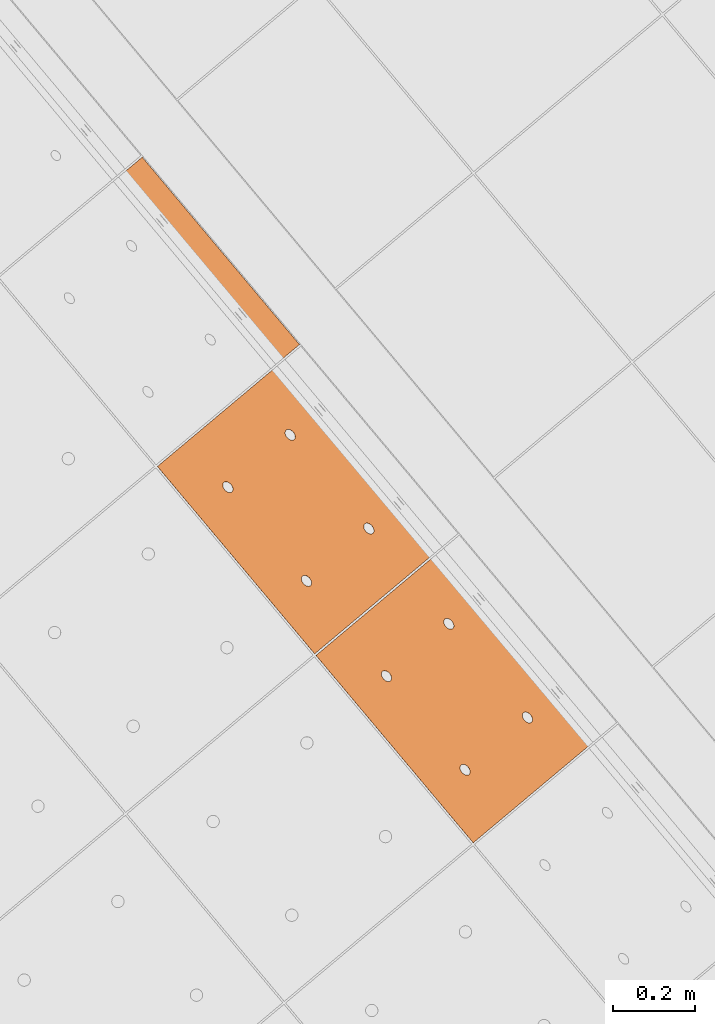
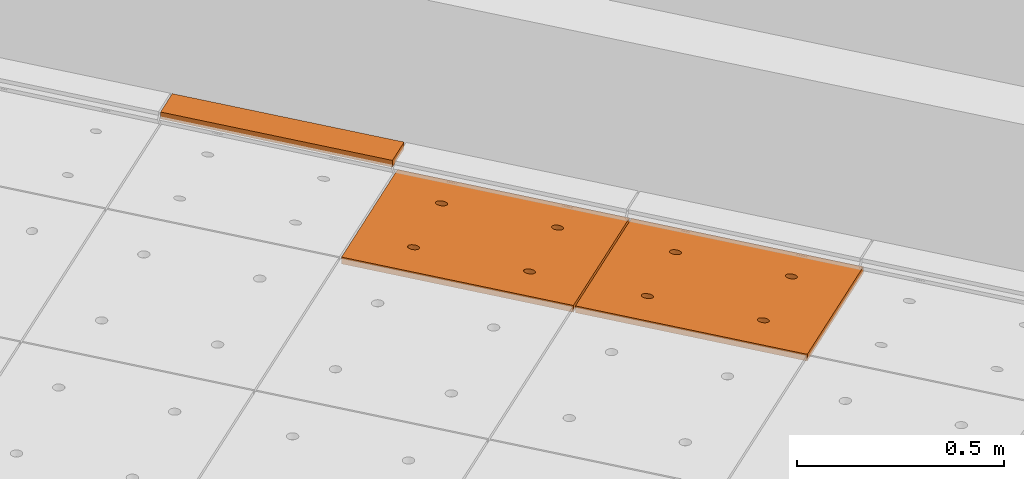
# One storey, part 211 of 338: 3 proxies, 1 element without a shape of its own.
"""IFC2X3 building model written with IfcOpenShell, lengths in millimetres."""

from ifc_helpers import new_model, entity, si_unit, converted_unit, derived_unit, money_unit, direction, frame, origin_with_axes, place, context, subcontext, project, spatial, faceted_brep, source, transform, mapped, material, type_object, type_shapes, element, aggregate, save


model = new_model("IFC2X3")

# Units and contexts
model_context = context("Model", 3, precision=0.01, world=origin_with_axes(), true_north=direction((0.0, 1.0)))
plan_context = context("Plan", 3, precision=0.01, world=origin_with_axes(), true_north=direction((0.0, 1.0)))
body_context = subcontext(model_context, "Body", "Model", "MODEL_VIEW")
ifc_project = project(units=[si_unit("LENGTHUNIT", "METRE", prefix="MILLI"), si_unit("AREAUNIT", "SQUARE_METRE"), si_unit("VOLUMEUNIT", "CUBIC_METRE"), converted_unit("PLANEANGLEUNIT", "DEGREE", entity("IfcPlaneAngleMeasure", 0.0174532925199), si_unit("PLANEANGLEUNIT", "RADIAN"), dimensions=[0, 0, 0, 0, 0, 0, 0]), money_unit("EUR"), converted_unit("TIMEUNIT", "Year", entity("IfcTimeMeasure", 31556926.0), si_unit("TIMEUNIT", "SECOND"), dimensions=[0, 0, 1, 0, 0, 0, 0]), si_unit("MASSUNIT", "GRAM", prefix="KILO"), si_unit("THERMODYNAMICTEMPERATUREUNIT", "DEGREE_CELSIUS"), si_unit("LUMINOUSINTENSITYUNIT", "LUMEN"), si_unit("ENERGYUNIT", "JOULE", prefix="MEGA"), derived_unit("THERMALCONDUCTANCEUNIT", [(si_unit("POWERUNIT", "WATT"), 1), (si_unit("LENGTHUNIT", "METRE"), -1), (si_unit("THERMODYNAMICTEMPERATUREUNIT", "KELVIN"), -1)]), derived_unit("SPECIFICHEATCAPACITYUNIT", [(si_unit("ENERGYUNIT", "JOULE"), 1), (si_unit("MASSUNIT", "GRAM", prefix="KILO"), -1), (si_unit("THERMODYNAMICTEMPERATUREUNIT", "KELVIN"), -1)]), derived_unit("MASSDENSITYUNIT", [(si_unit("MASSUNIT", "GRAM", prefix="KILO"), 1), (si_unit("VOLUMEUNIT", "CUBIC_METRE"), -1)])], contexts=[model_context, plan_context])

# Site, building, storey
site_placement = place(None, origin_with_axes())
site = spatial("IfcSite", under=ifc_project, at=site_placement, Name="Fortuinstraat Woensdrecht", CompositionType="ELEMENT")
building_placement = place(site_placement, origin_with_axes())
building = spatial("IfcBuilding", under=site, at=building_placement, Name="IKC Fortuna", CompositionType="ELEMENT")
storey_placement = place(building_placement, origin_with_axes())
storey = spatial("IfcBuildingStorey", under=building, at=storey_placement, Name="00 begane grond", CompositionType="ELEMENT", Elevation=0.0)

# Covering, proxies
covering_type = type_object("IfcCoveringType", Name="Curtain Wall Type", PredefinedType="CEILING")
covering_placement = place(storey_placement, frame((15863.124366, 4456.31398675, 4619.99995334), z_axis=(0.0, 0.0, 1.0), x_axis=(1.0, 0.0, 0.0)))
covering = element("IfcCovering", 1, at=covering_placement, inside=storey, type_object=covering_type, Name="45_Plafondafwerking_P01", PredefinedType="CEILING")
ifc_material = material(Name="Gipsplaat")
building_element_proxy_type_1 = type_object("IfcBuildingElementProxyType", Name="87 x 600 x 20", PredefinedType="NOTDEFINED")
shared_shape_1 = source(origin_with_axes(), body_context, "Body", "Brep", [
    faceted_brep([(142.231818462, 2.49999429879, -10.0), (224.589025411, 2.49999726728, -10.0), (224.589025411, 2.49999726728, 10.0), (142.231818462, 2.49999429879, 10.0), (142.231833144, 597.500001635, -10.0), (224.589035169, 597.499998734, -10.0), (224.589035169, 597.499998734, 10.0), (142.231833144, 597.500001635, 10.0)], [[[0, 1, 2, 3]], [[0, 4, 5, 1]], [[1, 5, 6, 2]], [[3, 2, 6, 7]], [[4, 0, 3, 7]], [[5, 4, 7, 6]]]),
])
type_shapes(building_element_proxy_type_1, [shared_shape_1])
proxy_1_placement = place(covering_placement, frame((-3684.00670911, 4390.42598492, 40.0000466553), z_axis=(0.0, 0.0, 1.0), x_axis=(1.0, 0.0, 0.0)))
proxy_1 = element("IfcBuildingElementProxy", 2, at=proxy_1_placement, type_object=building_element_proxy_type_1, material=ifc_material, Name="__600x645 Rockfon Krios", context=body_context, shape_type="MappedRepresentation", body=[
    mapped(shared_shape_1, transform((-52.3358266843, 347.707274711, -1.1901590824e-10), x_axis=(-0.766044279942, -0.642787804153, 0.0), y_axis=(0.642787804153, -0.766044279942, 0.0), z_axis=(0.0, 0.0, 1.0))),
])
building_element_proxy_type_2 = type_object("IfcBuildingElementProxyType", Name="Main Panel 401 x 600 x 20", PredefinedType="NOTDEFINED")
shared_shape_2 = source(origin_with_axes(), body_context, "Body", "Brep", [
    faceted_brep([(2.49999200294, 2.49999800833, -10.0), (200.390796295, 2.49999800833, -10.0), (200.390796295, 2.49999800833, 10.0), (2.49999200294, 2.49999800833, 10.0), (2.49999200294, 299.999999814, -10.0), (2.49999200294, 597.50000162, -10.0), (200.390796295, 597.50000162, -10.0), (398.281600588, 597.50000162, -10.0), (398.281600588, 299.999999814, -10.0), (398.281600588, 2.49999800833, -10.0), (111.423081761, 450.062330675, -10.0), (111.119914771, 452.647116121, -10.0), (110.522792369, 455.113489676, -10.0), (109.649857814, 457.38651185, -10.0), (108.527634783, 459.397117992, -10.0), (107.190221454, 461.084216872, -10.0), (105.678254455, 462.39654683, -10.0), (104.037674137, 463.294233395, -10.0), (102.318328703, 463.750000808, -10.0), (100.572459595, 463.750000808, -10.0), (98.8531141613, 463.294233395, -10.0), (97.212533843, 462.39654683, -10.0), (95.7005668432, 461.084216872, -10.0), (94.3631535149, 459.397117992, -10.0), (93.240930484, 457.38651185, -10.0), (92.3679959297, 455.113489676, -10.0), (91.7708735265, 452.647116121, -10.0), (91.4677065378, 450.062330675, -10.0), (91.4677065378, 448.750000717, -10.0), (91.4677065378, 447.437670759, -10.0), (91.7708735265, 444.852885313, -10.0), (92.3679959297, 442.386511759, -10.0), (93.240930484, 440.113489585, -10.0), (94.3631535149, 438.102883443, -10.0), (95.7005668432, 436.415784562, -10.0), (97.212533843, 435.103454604, -10.0), (98.8531141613, 434.205768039, -10.0), (100.572459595, 433.750000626, -10.0), (102.318328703, 433.750000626, -10.0), (104.037674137, 434.205768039, -10.0), (105.678254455, 435.103454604, -10.0), (107.190221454, 436.415784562, -10.0), (108.527634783, 438.102883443, -10.0), (109.649857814, 440.113489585, -10.0), (110.522792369, 442.386511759, -10.0), (111.119914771, 444.852885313, -10.0), (111.423081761, 447.437670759, -10.0), (309.313886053, 450.062330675, -10.0), (309.010719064, 452.647116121, -10.0), (308.413596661, 455.113489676, -10.0), (307.540662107, 457.38651185, -10.0), (306.418439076, 459.397117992, -10.0), (305.081025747, 461.084216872, -10.0), (303.569058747, 462.39654683, -10.0), (301.928478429, 463.294233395, -10.0), (300.209132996, 463.750000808, -10.0), (298.463263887, 463.750000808, -10.0), (296.743918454, 463.294233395, -10.0), (295.103338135, 462.39654683, -10.0), (293.591371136, 461.084216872, -10.0), (292.253957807, 459.397117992, -10.0), (291.131734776, 457.38651185, -10.0), (290.258800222, 455.113489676, -10.0), (289.661677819, 452.647116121, -10.0), (289.35851083, 450.062330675, -10.0), (289.35851083, 448.750000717, -10.0), (289.35851083, 447.437670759, -10.0), (289.661677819, 444.852885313, -10.0), (290.258800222, 442.386511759, -10.0), (291.131734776, 440.113489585, -10.0), (292.253957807, 438.102883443, -10.0), (293.591371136, 436.415784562, -10.0), (295.103338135, 435.103454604, -10.0), (296.743918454, 434.205768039, -10.0), (298.463263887, 433.750000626, -10.0), (300.209132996, 433.750000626, -10.0), (301.928478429, 434.205768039, -10.0), (303.569058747, 435.103454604, -10.0), (305.081025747, 436.415784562, -10.0), (306.418439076, 438.102883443, -10.0), (307.540662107, 440.113489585, -10.0), (308.413596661, 442.386511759, -10.0), (309.010719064, 444.852885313, -10.0), (309.313886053, 447.437670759, -10.0), (309.313886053, 152.562328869, -10.0), (309.010719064, 155.147114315, -10.0), (308.413596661, 157.61348787, -10.0), (307.540662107, 159.886510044, -10.0), (306.418439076, 161.897116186, -10.0), (305.081025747, 163.584215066, -10.0), (303.569058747, 164.896545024, -10.0), (301.928478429, 165.79423159, -10.0), (300.209132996, 166.249999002, -10.0), (298.463263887, 166.249999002, -10.0), (296.743918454, 165.79423159, -10.0), (295.103338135, 164.896545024, -10.0), (293.591371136, 163.584215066, -10.0), (292.253957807, 161.897116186, -10.0), (291.131734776, 159.886510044, -10.0), (290.258800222, 157.61348787, -10.0), (289.661677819, 155.147114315, -10.0), (289.35851083, 152.562328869, -10.0), (289.35851083, 151.249998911, -10.0), (289.35851083, 149.937668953, -10.0), (289.661677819, 147.352883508, -10.0), (290.258800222, 144.886509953, -10.0), (291.131734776, 142.613487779, -10.0), (292.253957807, 140.602881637, -10.0), (293.591371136, 138.915782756, -10.0), (295.103338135, 137.603452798, -10.0), (296.743918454, 136.705766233, -10.0), (298.463263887, 136.24999882, -10.0), (300.209132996, 136.24999882, -10.0), (301.928478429, 136.705766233, -10.0), (303.569058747, 137.603452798, -10.0), (305.081025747, 138.915782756, -10.0), (306.418439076, 140.602881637, -10.0), (307.540662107, 142.613487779, -10.0), (308.413596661, 144.886509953, -10.0), (309.010719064, 147.352883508, -10.0), (309.313886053, 149.937668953, -10.0), (111.423081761, 152.562328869, -10.0), (111.119914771, 155.147114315, -10.0), (110.522792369, 157.61348787, -10.0), (109.649857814, 159.886510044, -10.0), (108.527634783, 161.897116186, -10.0), (107.190221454, 163.584215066, -10.0), (105.678254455, 164.896545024, -10.0), (104.037674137, 165.79423159, -10.0), (102.318328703, 166.249999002, -10.0), (100.572459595, 166.249999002, -10.0), (98.8531141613, 165.79423159, -10.0), (97.212533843, 164.896545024, -10.0), (95.7005668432, 163.584215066, -10.0), (94.3631535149, 161.897116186, -10.0), (93.240930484, 159.886510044, -10.0), (92.3679959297, 157.61348787, -10.0), (91.7708735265, 155.147114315, -10.0), (91.4677065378, 152.562328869, -10.0), (91.4677065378, 151.249998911, -10.0), (91.4677065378, 149.937668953, -10.0), (91.7708735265, 147.352883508, -10.0), (92.3679959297, 144.886509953, -10.0), (93.240930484, 142.613487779, -10.0), (94.3631535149, 140.602881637, -10.0), (95.7005668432, 138.915782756, -10.0), (97.212533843, 137.603452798, -10.0), (98.8531141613, 136.705766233, -10.0), (100.572459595, 136.24999882, -10.0), (102.318328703, 136.24999882, -10.0), (104.037674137, 136.705766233, -10.0), (105.678254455, 137.603452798, -10.0), (107.190221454, 138.915782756, -10.0), (108.527634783, 140.602881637, -10.0), (109.649857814, 142.613487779, -10.0), (110.522792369, 144.886509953, -10.0), (111.119914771, 147.352883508, -10.0), (111.423081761, 149.937668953, -10.0), (398.281600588, 2.49999800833, 10.0), (398.281600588, 299.999999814, 10.0), (398.281600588, 597.50000162, 10.0), (200.390796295, 597.50000162, 10.0), (2.49999200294, 597.50000162, 10.0), (2.49999200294, 299.999999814, 10.0), (111.423081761, 450.062330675, 10.0), (111.423081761, 447.437670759, 10.0), (111.119914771, 444.852885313, 10.0), (110.522792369, 442.386511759, 10.0), (109.649857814, 440.113489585, 10.0), (108.527634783, 438.102883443, 10.0), (107.190221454, 436.415784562, 10.0), (105.678254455, 435.103454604, 10.0), (104.037674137, 434.205768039, 10.0), (102.318328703, 433.750000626, 10.0), (100.572459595, 433.750000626, 10.0), (98.8531141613, 434.205768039, 10.0), (97.212533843, 435.103454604, 10.0), (95.7005668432, 436.415784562, 10.0), (94.3631535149, 438.102883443, 10.0), (93.240930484, 440.113489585, 10.0), (92.3679959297, 442.386511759, 10.0), (91.7708735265, 444.852885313, 10.0), (91.4677065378, 447.437670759, 10.0), (91.4677065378, 448.750000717, 10.0), (91.4677065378, 450.062330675, 10.0), (91.7708735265, 452.647116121, 10.0), (92.3679959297, 455.113489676, 10.0), (93.240930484, 457.38651185, 10.0), (94.3631535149, 459.397117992, 10.0), (95.7005668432, 461.084216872, 10.0), (97.212533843, 462.39654683, 10.0), (98.8531141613, 463.294233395, 10.0), (100.572459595, 463.750000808, 10.0), (102.318328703, 463.750000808, 10.0), (104.037674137, 463.294233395, 10.0), (105.678254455, 462.39654683, 10.0), (107.190221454, 461.084216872, 10.0), (108.527634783, 459.397117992, 10.0), (109.649857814, 457.38651185, 10.0), (110.522792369, 455.113489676, 10.0), (111.119914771, 452.647116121, 10.0), (309.313886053, 450.062330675, 10.0), (309.313886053, 447.437670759, 10.0), (309.010719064, 444.852885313, 10.0), (308.413596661, 442.386511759, 10.0), (307.540662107, 440.113489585, 10.0), (306.418439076, 438.102883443, 10.0), (305.081025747, 436.415784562, 10.0), (303.569058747, 435.103454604, 10.0), (301.928478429, 434.205768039, 10.0), (300.209132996, 433.750000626, 10.0), (298.463263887, 433.750000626, 10.0), (296.743918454, 434.205768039, 10.0), (295.103338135, 435.103454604, 10.0), (293.591371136, 436.415784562, 10.0), (292.253957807, 438.102883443, 10.0), (291.131734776, 440.113489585, 10.0), (290.258800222, 442.386511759, 10.0), (289.661677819, 444.852885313, 10.0), (289.35851083, 447.437670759, 10.0), (289.35851083, 448.750000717, 10.0), (289.35851083, 450.062330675, 10.0), (289.661677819, 452.647116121, 10.0), (290.258800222, 455.113489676, 10.0), (291.131734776, 457.38651185, 10.0), (292.253957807, 459.397117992, 10.0), (293.591371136, 461.084216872, 10.0), (295.103338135, 462.39654683, 10.0), (296.743918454, 463.294233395, 10.0), (298.463263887, 463.750000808, 10.0), (300.209132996, 463.750000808, 10.0), (301.928478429, 463.294233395, 10.0), (303.569058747, 462.39654683, 10.0), (305.081025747, 461.084216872, 10.0), (306.418439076, 459.397117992, 10.0), (307.540662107, 457.38651185, 10.0), (308.413596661, 455.113489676, 10.0), (309.010719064, 452.647116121, 10.0), (309.313886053, 152.562328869, 10.0), (309.313886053, 149.937668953, 10.0), (309.010719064, 147.352883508, 10.0), (308.413596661, 144.886509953, 10.0), (307.540662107, 142.613487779, 10.0), (306.418439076, 140.602881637, 10.0), (305.081025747, 138.915782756, 10.0), (303.569058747, 137.603452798, 10.0), (301.928478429, 136.705766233, 10.0), (300.209132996, 136.24999882, 10.0), (298.463263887, 136.24999882, 10.0), (296.743918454, 136.705766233, 10.0), (295.103338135, 137.603452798, 10.0), (293.591371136, 138.915782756, 10.0), (292.253957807, 140.602881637, 10.0), (291.131734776, 142.613487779, 10.0), (290.258800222, 144.886509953, 10.0), (289.661677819, 147.352883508, 10.0), (289.35851083, 149.937668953, 10.0), (289.35851083, 151.249998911, 10.0), (289.35851083, 152.562328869, 10.0), (289.661677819, 155.147114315, 10.0), (290.258800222, 157.61348787, 10.0), (291.131734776, 159.886510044, 10.0), (292.253957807, 161.897116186, 10.0), (293.591371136, 163.584215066, 10.0), (295.103338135, 164.896545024, 10.0), (296.743918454, 165.79423159, 10.0), (298.463263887, 166.249999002, 10.0), (300.209132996, 166.249999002, 10.0), (301.928478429, 165.79423159, 10.0), (303.569058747, 164.896545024, 10.0), (305.081025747, 163.584215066, 10.0), (306.418439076, 161.897116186, 10.0), (307.540662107, 159.886510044, 10.0), (308.413596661, 157.61348787, 10.0), (309.010719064, 155.147114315, 10.0), (111.423081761, 152.562328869, 10.0), (111.423081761, 149.937668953, 10.0), (111.119914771, 147.352883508, 10.0), (110.522792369, 144.886509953, 10.0), (109.649857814, 142.613487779, 10.0), (108.527634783, 140.602881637, 10.0), (107.190221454, 138.915782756, 10.0), (105.678254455, 137.603452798, 10.0), (104.037674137, 136.705766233, 10.0), (102.318328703, 136.24999882, 10.0), (100.572459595, 136.24999882, 10.0), (98.8531141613, 136.705766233, 10.0), (97.212533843, 137.603452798, 10.0), (95.7005668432, 138.915782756, 10.0), (94.3631535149, 140.602881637, 10.0), (93.240930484, 142.613487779, 10.0), (92.3679959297, 144.886509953, 10.0), (91.7708735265, 147.352883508, 10.0), (91.4677065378, 149.937668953, 10.0), (91.4677065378, 151.249998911, 10.0), (91.4677065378, 152.562328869, 10.0), (91.7708735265, 155.147114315, 10.0), (92.3679959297, 157.61348787, 10.0), (93.240930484, 159.886510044, 10.0), (94.3631535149, 161.897116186, 10.0), (95.7005668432, 163.584215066, 10.0), (97.212533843, 164.896545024, 10.0), (98.8531141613, 165.79423159, 10.0), (100.572459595, 166.249999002, 10.0), (102.318328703, 166.249999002, 10.0), (104.037674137, 165.79423159, 10.0), (105.678254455, 164.896545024, 10.0), (107.190221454, 163.584215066, 10.0), (108.527634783, 161.897116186, 10.0), (109.649857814, 159.886510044, 10.0), (110.522792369, 157.61348787, 10.0), (111.119914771, 155.147114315, 10.0)], [[[0, 1, 2, 3]], [[0, 4, 5, 6, 7, 8, 9, 1], [10, 11, 12, 13, 14, 15, 16, 17, 18, 19, 20, 21, 22, 23, 24, 25, 26, 27, 28, 29, 30, 31, 32, 33, 34, 35, 36, 37, 38, 39, 40, 41, 42, 43, 44, 45, 46], [47, 48, 49, 50, 51, 52, 53, 54, 55, 56, 57, 58, 59, 60, 61, 62, 63, 64, 65, 66, 67, 68, 69, 70, 71, 72, 73, 74, 75, 76, 77, 78, 79, 80, 81, 82, 83], [84, 85, 86, 87, 88, 89, 90, 91, 92, 93, 94, 95, 96, 97, 98, 99, 100, 101, 102, 103, 104, 105, 106, 107, 108, 109, 110, 111, 112, 113, 114, 115, 116, 117, 118, 119, 120], [121, 122, 123, 124, 125, 126, 127, 128, 129, 130, 131, 132, 133, 134, 135, 136, 137, 138, 139, 140, 141, 142, 143, 144, 145, 146, 147, 148, 149, 150, 151, 152, 153, 154, 155, 156, 157]], [[1, 9, 158, 2]], [[3, 2, 158, 159, 160, 161, 162, 163], [164, 165, 166, 167, 168, 169, 170, 171, 172, 173, 174, 175, 176, 177, 178, 179, 180, 181, 182, 183, 184, 185, 186, 187, 188, 189, 190, 191, 192, 193, 194, 195, 196, 197, 198, 199, 200], [201, 202, 203, 204, 205, 206, 207, 208, 209, 210, 211, 212, 213, 214, 215, 216, 217, 218, 219, 220, 221, 222, 223, 224, 225, 226, 227, 228, 229, 230, 231, 232, 233, 234, 235, 236, 237], [238, 239, 240, 241, 242, 243, 244, 245, 246, 247, 248, 249, 250, 251, 252, 253, 254, 255, 256, 257, 258, 259, 260, 261, 262, 263, 264, 265, 266, 267, 268, 269, 270, 271, 272, 273, 274], [275, 276, 277, 278, 279, 280, 281, 282, 283, 284, 285, 286, 287, 288, 289, 290, 291, 292, 293, 294, 295, 296, 297, 298, 299, 300, 301, 302, 303, 304, 305, 306, 307, 308, 309, 310, 311]], [[4, 0, 3, 163]], [[5, 4, 163, 162]], [[6, 5, 162, 161]], [[7, 6, 161, 160]], [[8, 7, 160, 159]], [[9, 8, 159, 158]], [[11, 10, 164, 200]], [[12, 11, 200, 199]], [[13, 12, 199, 198]], [[14, 13, 198, 197]], [[15, 14, 197, 196]], [[16, 15, 196, 195]], [[17, 16, 195, 194]], [[18, 17, 194, 193]], [[19, 18, 193, 192]], [[20, 19, 192, 191]], [[21, 20, 191, 190]], [[22, 21, 190, 189]], [[23, 22, 189, 188]], [[24, 23, 188, 187]], [[25, 24, 187, 186]], [[26, 25, 186, 185]], [[27, 26, 185, 184]], [[28, 27, 184, 183]], [[29, 28, 183, 182]], [[30, 29, 182, 181]], [[31, 30, 181, 180]], [[32, 31, 180, 179]], [[33, 32, 179, 178]], [[34, 33, 178, 177]], [[35, 34, 177, 176]], [[36, 35, 176, 175]], [[37, 36, 175, 174]], [[38, 37, 174, 173]], [[39, 38, 173, 172]], [[40, 39, 172, 171]], [[41, 40, 171, 170]], [[42, 41, 170, 169]], [[43, 42, 169, 168]], [[44, 43, 168, 167]], [[45, 44, 167, 166]], [[46, 45, 166, 165]], [[10, 46, 165, 164]], [[48, 47, 201, 237]], [[49, 48, 237, 236]], [[50, 49, 236, 235]], [[51, 50, 235, 234]], [[52, 51, 234, 233]], [[53, 52, 233, 232]], [[54, 53, 232, 231]], [[55, 54, 231, 230]], [[56, 55, 230, 229]], [[57, 56, 229, 228]], [[58, 57, 228, 227]], [[59, 58, 227, 226]], [[60, 59, 226, 225]], [[61, 60, 225, 224]], [[62, 61, 224, 223]], [[63, 62, 223, 222]], [[64, 63, 222, 221]], [[65, 64, 221, 220]], [[66, 65, 220, 219]], [[67, 66, 219, 218]], [[68, 67, 218, 217]], [[69, 68, 217, 216]], [[70, 69, 216, 215]], [[71, 70, 215, 214]], [[72, 71, 214, 213]], [[73, 72, 213, 212]], [[74, 73, 212, 211]], [[75, 74, 211, 210]], [[76, 75, 210, 209]], [[77, 76, 209, 208]], [[78, 77, 208, 207]], [[79, 78, 207, 206]], [[80, 79, 206, 205]], [[81, 80, 205, 204]], [[82, 81, 204, 203]], [[83, 82, 203, 202]], [[47, 83, 202, 201]], [[85, 84, 238, 274]], [[86, 85, 274, 273]], [[87, 86, 273, 272]], [[88, 87, 272, 271]], [[89, 88, 271, 270]], [[90, 89, 270, 269]], [[91, 90, 269, 268]], [[92, 91, 268, 267]], [[93, 92, 267, 266]], [[94, 93, 266, 265]], [[95, 94, 265, 264]], [[96, 95, 264, 263]], [[97, 96, 263, 262]], [[98, 97, 262, 261]], [[99, 98, 261, 260]], [[100, 99, 260, 259]], [[101, 100, 259, 258]], [[102, 101, 258, 257]], [[103, 102, 257, 256]], [[104, 103, 256, 255]], [[105, 104, 255, 254]], [[106, 105, 254, 253]], [[107, 106, 253, 252]], [[108, 107, 252, 251]], [[109, 108, 251, 250]], [[110, 109, 250, 249]], [[111, 110, 249, 248]], [[112, 111, 248, 247]], [[113, 112, 247, 246]], [[114, 113, 246, 245]], [[115, 114, 245, 244]], [[116, 115, 244, 243]], [[117, 116, 243, 242]], [[118, 117, 242, 241]], [[119, 118, 241, 240]], [[120, 119, 240, 239]], [[84, 120, 239, 238]], [[122, 121, 275, 311]], [[123, 122, 311, 310]], [[124, 123, 310, 309]], [[125, 124, 309, 308]], [[126, 125, 308, 307]], [[127, 126, 307, 306]], [[128, 127, 306, 305]], [[129, 128, 305, 304]], [[130, 129, 304, 303]], [[131, 130, 303, 302]], [[132, 131, 302, 301]], [[133, 132, 301, 300]], [[134, 133, 300, 299]], [[135, 134, 299, 298]], [[136, 135, 298, 297]], [[137, 136, 297, 296]], [[138, 137, 296, 295]], [[139, 138, 295, 294]], [[140, 139, 294, 293]], [[141, 140, 293, 292]], [[142, 141, 292, 291]], [[143, 142, 291, 290]], [[144, 143, 290, 289]], [[145, 144, 289, 288]], [[146, 145, 288, 287]], [[147, 146, 287, 286]], [[148, 147, 286, 285]], [[149, 148, 285, 284]], [[150, 149, 284, 283]], [[151, 150, 283, 282]], [[152, 151, 282, 281]], [[153, 152, 281, 280]], [[154, 153, 280, 279]], [[155, 154, 279, 278]], [[156, 155, 278, 277]], [[157, 156, 277, 276]], [[121, 157, 276, 275]]]),
])
type_shapes(building_element_proxy_type_2, [shared_shape_2])
proxy_2_placement = place(covering_placement, frame((-3464.03241938, 3791.76188502, 1.08315923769), z_axis=(0.0, 0.0, 1.0), x_axis=(0.642787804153, -0.766044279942, 0.0)))
proxy_2 = element("IfcBuildingElementProxy", 3, at=proxy_2_placement, type_object=building_element_proxy_type_2, material=ifc_material, Name="__600x957 Rockfon Krios", context=body_context, shape_type="MappedRepresentation", body=[
    mapped(shared_shape_2, transform((-300.0, 200.387875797, -1.08311258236), x_axis=(0.0, -0.999985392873, 0.00540500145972), y_axis=(1.0, 0.0, 0.0), z_axis=(0.0, 0.00540500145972, 0.999985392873))),
])
proxy_3_placement = place(covering_placement, frame((-3078.35973689, 3332.13531706, 1.08315923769), z_axis=(0.0, 0.0, 1.0), x_axis=(0.642787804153, -0.766044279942, 0.0)))
proxy_3 = element("IfcBuildingElementProxy", 4, at=proxy_3_placement, type_object=building_element_proxy_type_2, material=ifc_material, Name="__600x970 Rockfon Krios", context=body_context, shape_type="MappedRepresentation", body=[
    mapped(shared_shape_2, transform((-300.0, 200.387875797, -1.08311258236), x_axis=(0.0, -0.999985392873, 0.00540500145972), y_axis=(1.0, 0.0, 0.0), z_axis=(0.0, 0.00540500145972, 0.999985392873))),
])
aggregate(covering, [proxy_1, proxy_2, proxy_3])

save(model, "model.ifc")
